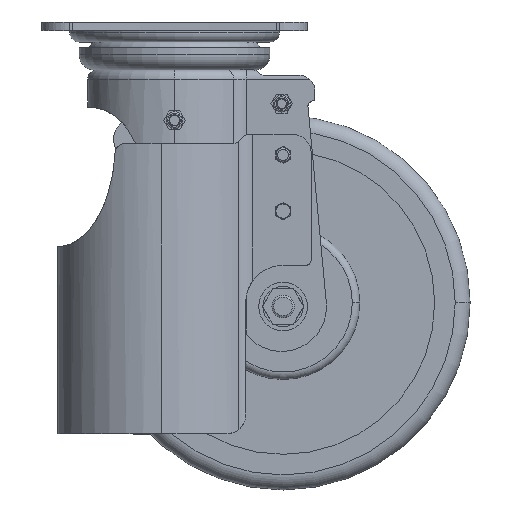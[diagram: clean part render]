
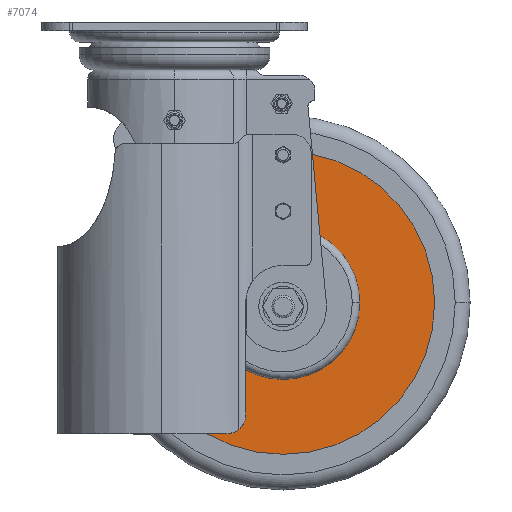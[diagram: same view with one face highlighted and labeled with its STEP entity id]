
A CAD part, top view. The second image highlights one B-rep face of the part: STEP entity #7074.
In plain terms, the highlighted planar face has unit normal (0, 0, 1).
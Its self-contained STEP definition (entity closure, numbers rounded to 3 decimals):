
#493 = FACE_OUTER_BOUND ( 'NONE', #10615, .T. ) ;
#578 = VERTEX_POINT ( 'NONE', #11570 ) ;
#728 = EDGE_CURVE ( 'NONE', #6858, #7983, #2874, .T. ) ;
#992 = ORIENTED_EDGE ( 'NONE', *, *, #728, .F. ) ;
#1077 = AXIS2_PLACEMENT_3D ( 'NONE', #8173, #2653, #9075 ) ;
#1426 = CARTESIAN_POINT ( 'NONE',  ( 0., 0., 21.5 ) ) ;
#1544 = AXIS2_PLACEMENT_3D ( 'NONE', #7462, #1953, #8372 ) ;
#1953 = DIRECTION ( 'NONE',  ( 0., 0., 1. ) ) ;
#2359 = DIRECTION ( 'NONE',  ( 1., 0., 0. ) ) ;
#2380 = CARTESIAN_POINT ( 'NONE',  ( -41., 0., 21.5 ) ) ;
#2653 = DIRECTION ( 'NONE',  ( 0., 0., 1. ) ) ;
#2874 = CIRCLE ( 'NONE', #1077, 41. ) ;
#3275 = CIRCLE ( 'NONE', #7635, 81. ) ;
#3487 = CARTESIAN_POINT ( 'NONE',  ( 41., 0., 21.5 ) ) ;
#3741 = CARTESIAN_POINT ( 'NONE',  ( 0., 0., 21.5 ) ) ;
#3950 = ORIENTED_EDGE ( 'NONE', *, *, #8386, .T. ) ;
#4635 = CIRCLE ( 'NONE', #6405, 81. ) ;
#4663 = DIRECTION ( 'NONE',  ( 1., 0., 0. ) ) ;
#4760 = EDGE_LOOP ( 'NONE', ( #992, #7576 ) ) ;
#5397 = PLANE ( 'NONE',  #6381 ) ;
#5435 = EDGE_CURVE ( 'NONE', #8071, #578, #3275, .T. ) ;
#6335 = DIRECTION ( 'NONE',  ( 1., 0., 0. ) ) ;
#6381 = AXIS2_PLACEMENT_3D ( 'NONE', #7225, #11859, #6335 ) ;
#6405 = AXIS2_PLACEMENT_3D ( 'NONE', #1426, #7872, #2359 ) ;
#6858 = VERTEX_POINT ( 'NONE', #2380 ) ;
#7074 = ADVANCED_FACE ( 'NONE', ( #11889, #493 ), #5397, .T. ) ;
#7225 = CARTESIAN_POINT ( 'NONE',  ( 0., 0., 21.5 ) ) ;
#7462 = CARTESIAN_POINT ( 'NONE',  ( 0., 0., 21.5 ) ) ;
#7576 = ORIENTED_EDGE ( 'NONE', *, *, #7638, .F. ) ;
#7635 = AXIS2_PLACEMENT_3D ( 'NONE', #3741, #10192, #4663 ) ;
#7638 = EDGE_CURVE ( 'NONE', #7983, #6858, #8842, .T. ) ;
#7872 = DIRECTION ( 'NONE',  ( 0., 0., 1. ) ) ;
#7983 = VERTEX_POINT ( 'NONE', #3487 ) ;
#8071 = VERTEX_POINT ( 'NONE', #11897 ) ;
#8173 = CARTESIAN_POINT ( 'NONE',  ( 0., 0., 21.5 ) ) ;
#8372 = DIRECTION ( 'NONE',  ( 1., 0., 0. ) ) ;
#8386 = EDGE_CURVE ( 'NONE', #578, #8071, #4635, .T. ) ;
#8842 = CIRCLE ( 'NONE', #1544, 41. ) ;
#9075 = DIRECTION ( 'NONE',  ( 1., 0., 0. ) ) ;
#10192 = DIRECTION ( 'NONE',  ( 0., 0., 1. ) ) ;
#10615 = EDGE_LOOP ( 'NONE', ( #11428, #3950 ) ) ;
#11428 = ORIENTED_EDGE ( 'NONE', *, *, #5435, .T. ) ;
#11570 = CARTESIAN_POINT ( 'NONE',  ( -81., 0., 21.5 ) ) ;
#11859 = DIRECTION ( 'NONE',  ( 0., 0., 1. ) ) ;
#11889 = FACE_BOUND ( 'NONE', #4760, .T. ) ;
#11897 = CARTESIAN_POINT ( 'NONE',  ( 81., 0., 21.5 ) ) ;
